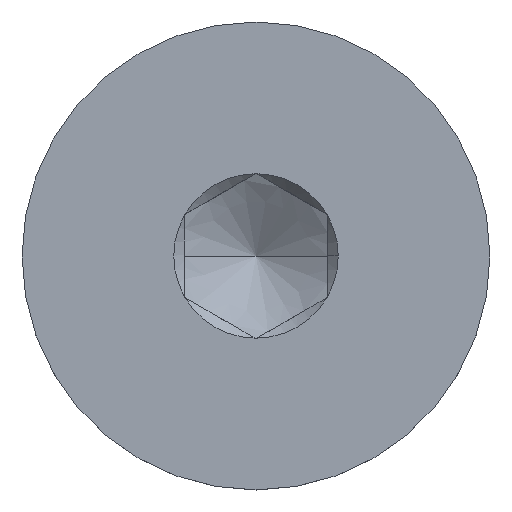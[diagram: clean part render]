
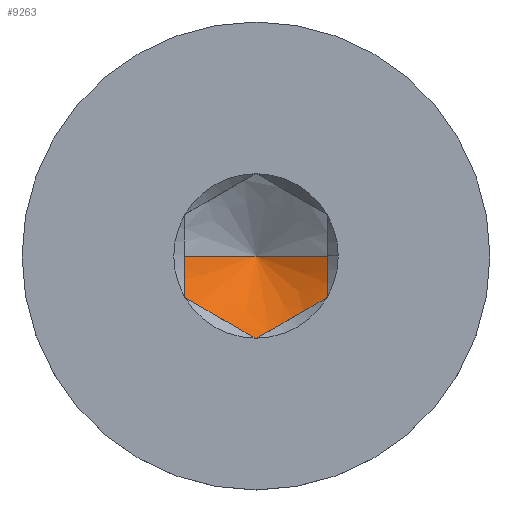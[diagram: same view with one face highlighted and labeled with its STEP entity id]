
A CAD part, top view. The second image highlights one B-rep face of the part: STEP entity #9263.
In plain terms, the highlighted conical face has half-angle 60 degrees and reference radius 1732.05 mm.
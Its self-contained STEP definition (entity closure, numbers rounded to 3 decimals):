
#13 = DIRECTION ( 'NONE',  ( 0.866, 0., 0.5 ) ) ;
#176 = CARTESIAN_POINT ( 'NONE',  ( -1.5, -0.581, -1.475 ) ) ;
#354 = VECTOR ( 'NONE', #6415, 1000. ) ;
#506 = CARTESIAN_POINT ( 'NONE',  ( 1.5, -0.725, -1.441 ) ) ;
#899 = VERTEX_POINT ( 'NONE', #7739 ) ;
#1008 = CARTESIAN_POINT ( 'NONE',  ( -1.5, -0.725, -1.441 ) ) ;
#1307 = DIRECTION ( 'NONE',  ( 1., 0., 0. ) ) ;
#1562 = CARTESIAN_POINT ( 'NONE',  ( 0., -1.732, -1.4 ) ) ;
#1688 = CARTESIAN_POINT ( 'NONE',  ( 0., 0., -2.4 ) ) ;
#1782 = ORIENTED_EDGE ( 'NONE', *, *, #6606, .F. ) ;
#1881 = VECTOR ( 'NONE', #13, 1000. ) ;
#2487 = CARTESIAN_POINT ( 'NONE',  ( 1.5, -0.866, -1.4 ) ) ;
#2882 = ORIENTED_EDGE ( 'NONE', *, *, #8399, .F. ) ;
#3070 = CARTESIAN_POINT ( 'NONE',  ( 0., -1.732, -1.4 ) ) ;
#3131 = CARTESIAN_POINT ( 'NONE',  ( -0.245, -1.591, -1.482 ) ) ;
#3444 = CARTESIAN_POINT ( 'NONE',  ( 0.245, -1.59, -1.482 ) ) ;
#3622 = B_SPLINE_CURVE_WITH_KNOTS ( 'NONE', 3,
 ( #6205, #1008, #176, #4556, #8825, #3765 ),
 .UNSPECIFIED., .F., .F.,
 ( 4, 2, 4 ),
 ( 0.001, 0.002, 0.002 ),
 .UNSPECIFIED. ) ;
#3750 = B_SPLINE_CURVE_WITH_KNOTS ( 'NONE', 3,
 ( #9163, #5534, #10686, #10018, #506, #7274 ),
 .UNSPECIFIED., .F., .F.,
 ( 4, 2, 4 ),
 ( 0.006, 0.006, 0.006 ),
 .UNSPECIFIED. ) ;
#3765 = CARTESIAN_POINT ( 'NONE',  ( -1.5, 0., -1.534 ) ) ;
#4402 = CARTESIAN_POINT ( 'NONE',  ( 1.006, -1.151, -1.534 ) ) ;
#4556 = CARTESIAN_POINT ( 'NONE',  ( -1.5, -0.292, -1.521 ) ) ;
#4836 = B_SPLINE_CURVE_WITH_KNOTS ( 'NONE', 3,
 ( #2487, #9279, #4402, #5939, #3444, #9394 ),
 .UNSPECIFIED., .F., .F.,
 ( 4, 2, 4 ),
 ( 0., 0.001, 0.002 ),
 .UNSPECIFIED. ) ;
#5534 = CARTESIAN_POINT ( 'NONE',  ( 1.5, -0.146, -1.534 ) ) ;
#5541 = DIRECTION ( 'NONE',  ( 0., 0., 1. ) ) ;
#5690 = CARTESIAN_POINT ( 'NONE',  ( 1.5, 0., -1.534 ) ) ;
#5697 = ORIENTED_EDGE ( 'NONE', *, *, #7479, .F. ) ;
#5737 = CARTESIAN_POINT ( 'NONE',  ( -1.004, -1.153, -1.534 ) ) ;
#5794 = CARTESIAN_POINT ( 'NONE',  ( -0.494, -1.447, -1.534 ) ) ;
#5939 = CARTESIAN_POINT ( 'NONE',  ( 0.496, -1.445, -1.534 ) ) ;
#6098 = ORIENTED_EDGE ( 'NONE', *, *, #10894, .F. ) ;
#6205 = CARTESIAN_POINT ( 'NONE',  ( -1.5, -0.866, -1.4 ) ) ;
#6286 = ORIENTED_EDGE ( 'NONE', *, *, #8388, .F. ) ;
#6415 = DIRECTION ( 'NONE',  ( -0.866, 0., 0.5 ) ) ;
#6515 = CARTESIAN_POINT ( 'NONE',  ( -1.5, -0.866, -1.4 ) ) ;
#6553 = CONICAL_SURFACE ( 'NONE', #8534, 1732.051, 1.047 ) ;
#6573 = VERTEX_POINT ( 'NONE', #1562 ) ;
#6606 = EDGE_CURVE ( 'NONE', #6573, #9403, #8634, .T. ) ;
#6765 = EDGE_CURVE ( 'NONE', #899, #10767, #10517, .T. ) ;
#6937 = EDGE_LOOP ( 'NONE', ( #6098, #9415, #2882, #1782, #6286, #5697 ) ) ;
#7274 = CARTESIAN_POINT ( 'NONE',  ( 1.5, -0.866, -1.4 ) ) ;
#7479 = EDGE_CURVE ( 'NONE', #10733, #7967, #3750, .T. ) ;
#7566 = CARTESIAN_POINT ( 'NONE',  ( -1.5, -0.866, -1.4 ) ) ;
#7739 = CARTESIAN_POINT ( 'NONE',  ( 0., 0., -2.4 ) ) ;
#7967 = VERTEX_POINT ( 'NONE', #8058 ) ;
#8058 = CARTESIAN_POINT ( 'NONE',  ( 1.5, -0.866, -1.4 ) ) ;
#8268 = CARTESIAN_POINT ( 'NONE',  ( -1.5, 0., -1.534 ) ) ;
#8388 = EDGE_CURVE ( 'NONE', #7967, #6573, #4836, .T. ) ;
#8399 = EDGE_CURVE ( 'NONE', #9403, #10767, #3622, .T. ) ;
#8534 = AXIS2_PLACEMENT_3D ( 'NONE', #9062, #5541, #1307 ) ;
#8634 = B_SPLINE_CURVE_WITH_KNOTS ( 'NONE', 3,
 ( #3070, #3131, #5794, #5737, #9140, #6515 ),
 .UNSPECIFIED., .F., .F.,
 ( 4, 2, 4 ),
 ( 0., 0.001, 0.002 ),
 .UNSPECIFIED. ) ;
#8825 = CARTESIAN_POINT ( 'NONE',  ( -1.5, -0.146, -1.534 ) ) ;
#8826 = CARTESIAN_POINT ( 'NONE',  ( 0., 0., -2.4 ) ) ;
#9003 = FACE_OUTER_BOUND ( 'NONE', #6937, .T. ) ;
#9062 = CARTESIAN_POINT ( 'NONE',  ( 0., 0., 997.6 ) ) ;
#9140 = CARTESIAN_POINT ( 'NONE',  ( -1.255, -1.008, -1.482 ) ) ;
#9163 = CARTESIAN_POINT ( 'NONE',  ( 1.5, 0., -1.534 ) ) ;
#9263 = ADVANCED_FACE ( 'NONE', ( #9003 ), #6553, .F. ) ;
#9279 = CARTESIAN_POINT ( 'NONE',  ( 1.255, -1.007, -1.482 ) ) ;
#9380 = LINE ( 'NONE', #1688, #1881 ) ;
#9394 = CARTESIAN_POINT ( 'NONE',  ( 0., -1.732, -1.4 ) ) ;
#9403 = VERTEX_POINT ( 'NONE', #7566 ) ;
#9415 = ORIENTED_EDGE ( 'NONE', *, *, #6765, .T. ) ;
#10018 = CARTESIAN_POINT ( 'NONE',  ( 1.5, -0.581, -1.475 ) ) ;
#10517 = LINE ( 'NONE', #8826, #354 ) ;
#10686 = CARTESIAN_POINT ( 'NONE',  ( 1.5, -0.292, -1.521 ) ) ;
#10733 = VERTEX_POINT ( 'NONE', #5690 ) ;
#10767 = VERTEX_POINT ( 'NONE', #8268 ) ;
#10894 = EDGE_CURVE ( 'NONE', #899, #10733, #9380, .T. ) ;
